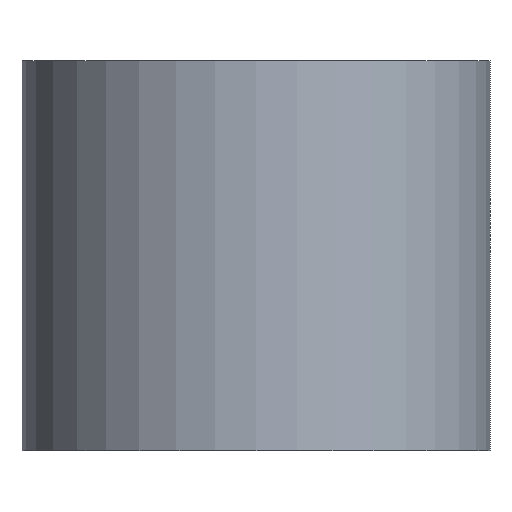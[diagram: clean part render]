
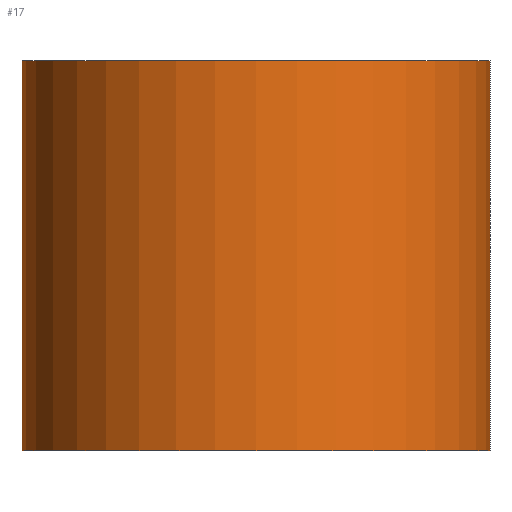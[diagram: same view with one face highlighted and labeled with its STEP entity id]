
A CAD part, front view. The second image highlights one B-rep face of the part: STEP entity #17.
In plain terms, the highlighted cylindrical face has radius 6 mm (diameter 12 mm), a full revolution.
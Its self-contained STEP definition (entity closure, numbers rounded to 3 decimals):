
#17 = ADVANCED_FACE('',(#18),#32,.T.);
#18 = FACE_BOUND('',#19,.F.);
#19 = EDGE_LOOP('',(#20,#50,#77,#78));
#20 = ORIENTED_EDGE('',*,*,#21,.T.);
#21 = EDGE_CURVE('',#22,#24,#26,.T.);
#22 = VERTEX_POINT('',#23);
#23 = CARTESIAN_POINT('',(6.,0.,0.));
#24 = VERTEX_POINT('',#25);
#25 = CARTESIAN_POINT('',(6.,0.,10.));
#26 = SEAM_CURVE('',#27,(#31,#43),.PCURVE_S1.);
#27 = LINE('',#28,#29);
#28 = CARTESIAN_POINT('',(6.,0.,0.));
#29 = VECTOR('',#30,1.);
#30 = DIRECTION('',(0.,0.,1.));
#31 = PCURVE('',#32,#37);
#32 = CYLINDRICAL_SURFACE('',#33,6.);
#33 = AXIS2_PLACEMENT_3D('',#34,#35,#36);
#34 = CARTESIAN_POINT('',(0.,0.,0.));
#35 = DIRECTION('',(-0.,-0.,-1.));
#36 = DIRECTION('',(1.,0.,0.));
#37 = DEFINITIONAL_REPRESENTATION('',(#38),#42);
#38 = LINE('',#39,#40);
#39 = CARTESIAN_POINT('',(-0.,0.));
#40 = VECTOR('',#41,1.);
#41 = DIRECTION('',(-0.,-1.));
#42 = ( GEOMETRIC_REPRESENTATION_CONTEXT(2) 
PARAMETRIC_REPRESENTATION_CONTEXT() REPRESENTATION_CONTEXT('2D SPACE',''
  ) );
#43 = PCURVE('',#32,#44);
#44 = DEFINITIONAL_REPRESENTATION('',(#45),#49);
#45 = LINE('',#46,#47);
#46 = CARTESIAN_POINT('',(-6.283,0.));
#47 = VECTOR('',#48,1.);
#48 = DIRECTION('',(-0.,-1.));
#49 = ( GEOMETRIC_REPRESENTATION_CONTEXT(2) 
PARAMETRIC_REPRESENTATION_CONTEXT() REPRESENTATION_CONTEXT('2D SPACE',''
  ) );
#50 = ORIENTED_EDGE('',*,*,#51,.T.);
#51 = EDGE_CURVE('',#24,#24,#52,.T.);
#52 = SURFACE_CURVE('',#53,(#58,#65),.PCURVE_S1.);
#53 = CIRCLE('',#54,6.);
#54 = AXIS2_PLACEMENT_3D('',#55,#56,#57);
#55 = CARTESIAN_POINT('',(0.,0.,10.));
#56 = DIRECTION('',(0.,0.,1.));
#57 = DIRECTION('',(1.,0.,0.));
#58 = PCURVE('',#32,#59);
#59 = DEFINITIONAL_REPRESENTATION('',(#60),#64);
#60 = LINE('',#61,#62);
#61 = CARTESIAN_POINT('',(-0.,-10.));
#62 = VECTOR('',#63,1.);
#63 = DIRECTION('',(-1.,0.));
#64 = ( GEOMETRIC_REPRESENTATION_CONTEXT(2) 
PARAMETRIC_REPRESENTATION_CONTEXT() REPRESENTATION_CONTEXT('2D SPACE',''
  ) );
#65 = PCURVE('',#66,#71);
#66 = PLANE('',#67);
#67 = AXIS2_PLACEMENT_3D('',#68,#69,#70);
#68 = CARTESIAN_POINT('',(0.,0.,10.));
#69 = DIRECTION('',(0.,0.,1.));
#70 = DIRECTION('',(1.,0.,-0.));
#71 = DEFINITIONAL_REPRESENTATION('',(#72),#76);
#72 = CIRCLE('',#73,6.);
#73 = AXIS2_PLACEMENT_2D('',#74,#75);
#74 = CARTESIAN_POINT('',(0.,0.));
#75 = DIRECTION('',(1.,0.));
#76 = ( GEOMETRIC_REPRESENTATION_CONTEXT(2) 
PARAMETRIC_REPRESENTATION_CONTEXT() REPRESENTATION_CONTEXT('2D SPACE',''
  ) );
#77 = ORIENTED_EDGE('',*,*,#21,.F.);
#78 = ORIENTED_EDGE('',*,*,#79,.F.);
#79 = EDGE_CURVE('',#22,#22,#80,.T.);
#80 = SURFACE_CURVE('',#81,(#86,#93),.PCURVE_S1.);
#81 = CIRCLE('',#82,6.);
#82 = AXIS2_PLACEMENT_3D('',#83,#84,#85);
#83 = CARTESIAN_POINT('',(0.,0.,0.));
#84 = DIRECTION('',(0.,0.,1.));
#85 = DIRECTION('',(1.,0.,0.));
#86 = PCURVE('',#32,#87);
#87 = DEFINITIONAL_REPRESENTATION('',(#88),#92);
#88 = LINE('',#89,#90);
#89 = CARTESIAN_POINT('',(-0.,0.));
#90 = VECTOR('',#91,1.);
#91 = DIRECTION('',(-1.,0.));
#92 = ( GEOMETRIC_REPRESENTATION_CONTEXT(2) 
PARAMETRIC_REPRESENTATION_CONTEXT() REPRESENTATION_CONTEXT('2D SPACE',''
  ) );
#93 = PCURVE('',#94,#99);
#94 = PLANE('',#95);
#95 = AXIS2_PLACEMENT_3D('',#96,#97,#98);
#96 = CARTESIAN_POINT('',(0.,0.,0.));
#97 = DIRECTION('',(0.,0.,1.));
#98 = DIRECTION('',(1.,0.,-0.));
#99 = DEFINITIONAL_REPRESENTATION('',(#100),#104);
#100 = CIRCLE('',#101,6.);
#101 = AXIS2_PLACEMENT_2D('',#102,#103);
#102 = CARTESIAN_POINT('',(0.,0.));
#103 = DIRECTION('',(1.,0.));
#104 = ( GEOMETRIC_REPRESENTATION_CONTEXT(2) 
PARAMETRIC_REPRESENTATION_CONTEXT() REPRESENTATION_CONTEXT('2D SPACE',''
  ) );
